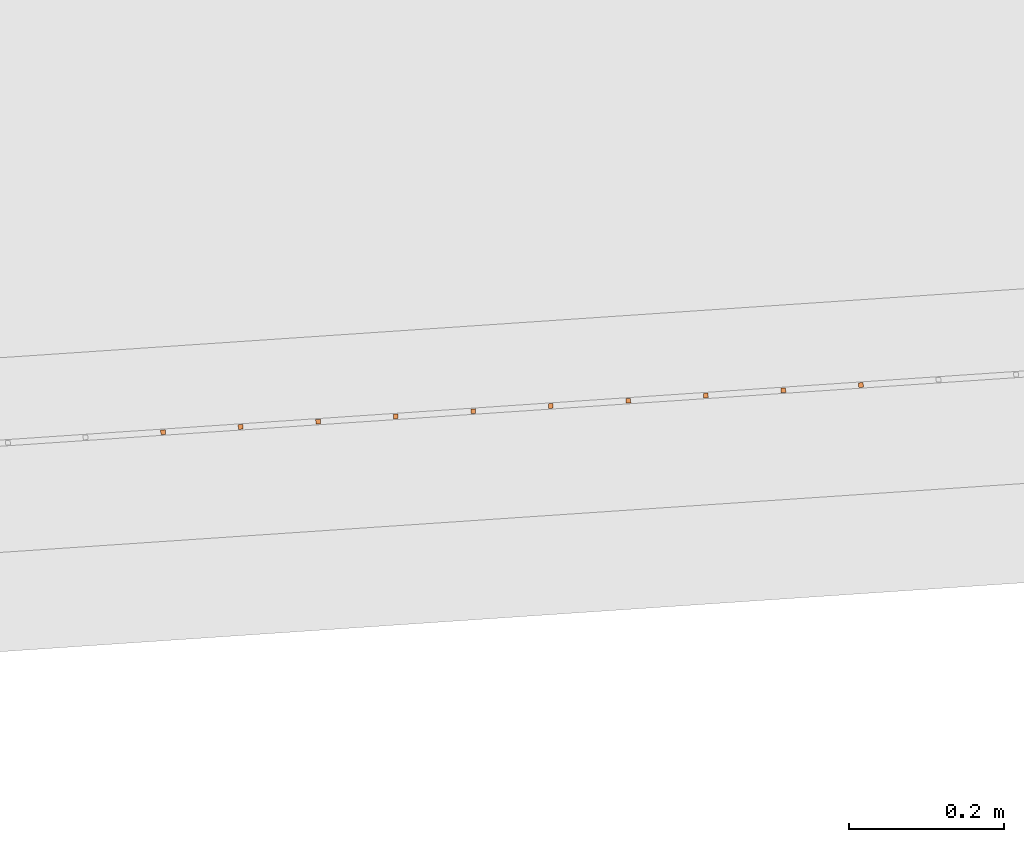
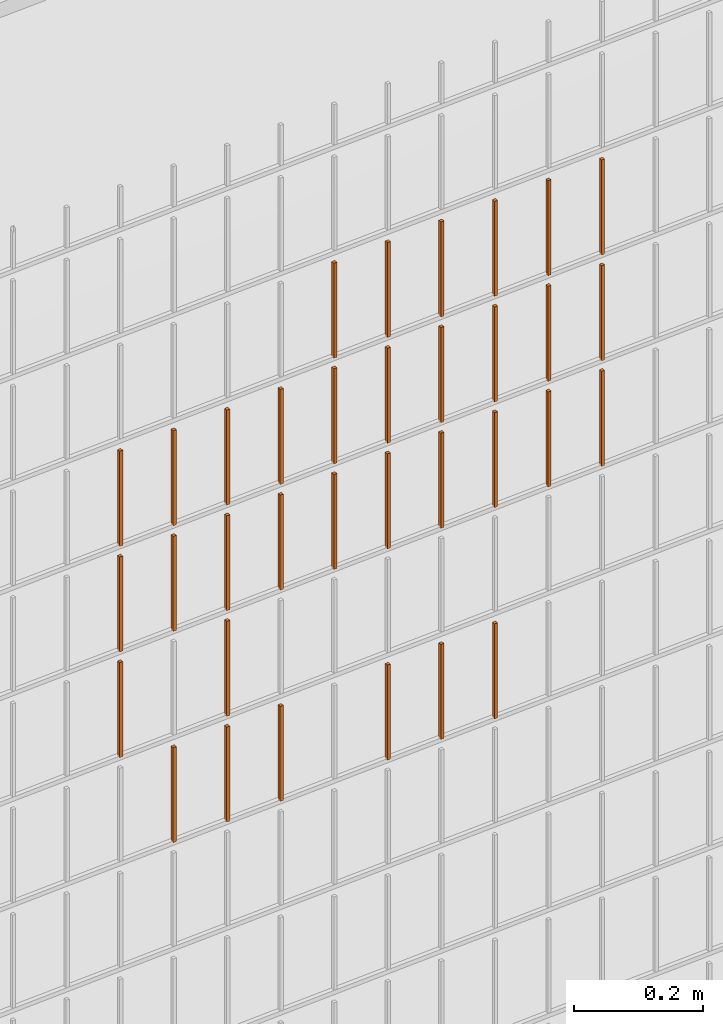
# One storey, part 260 of 1809: 34 proxies, 1 element without a shape of its own.
"""IFC2X3 building model written with IfcOpenShell, lengths in millimetres."""

from ifc_helpers import new_model, entity, si_unit, converted_unit, derived_unit, money_unit, direction, frame, origin_with_axes, place, context, subcontext, project, spatial, faceted_brep, source, transform, mapped, material, type_object, element, aggregate, save


model = new_model("IFC2X3")

# Units and contexts
model_context = context("Model", 3, precision=0.01, world=origin_with_axes(), true_north=direction((0.0, 1.0)))
body_context = subcontext(model_context, "Body", "Model", "MODEL_VIEW")
ifc_project = project(units=[si_unit("LENGTHUNIT", "METRE", prefix="MILLI"), si_unit("AREAUNIT", "SQUARE_METRE"), si_unit("VOLUMEUNIT", "CUBIC_METRE"), converted_unit("PLANEANGLEUNIT", "DEGREE", entity("IfcPlaneAngleMeasure", 0.0174532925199), si_unit("PLANEANGLEUNIT", "RADIAN"), dimensions=[0, 0, 0, 0, 0, 0, 0]), si_unit("SOLIDANGLEUNIT", "STERADIAN"), money_unit("EUR"), converted_unit("TIMEUNIT", "Year", entity("IfcTimeMeasure", 31556926.0), si_unit("TIMEUNIT", "SECOND"), dimensions=[0, 0, 1, 0, 0, 0, 0]), si_unit("MASSUNIT", "GRAM", prefix="KILO"), si_unit("THERMODYNAMICTEMPERATUREUNIT", "DEGREE_CELSIUS"), si_unit("LUMINOUSINTENSITYUNIT", "LUMEN"), si_unit("ENERGYUNIT", "JOULE", prefix="MEGA"), derived_unit("THERMALCONDUCTANCEUNIT", [(si_unit("POWERUNIT", "WATT"), 1), (si_unit("LENGTHUNIT", "METRE"), -1), (si_unit("THERMODYNAMICTEMPERATUREUNIT", "KELVIN"), -1)]), derived_unit("SPECIFICHEATCAPACITYUNIT", [(si_unit("ENERGYUNIT", "JOULE"), 1), (si_unit("MASSUNIT", "GRAM", prefix="KILO"), -1), (si_unit("THERMODYNAMICTEMPERATUREUNIT", "KELVIN"), -1)]), derived_unit("MASSDENSITYUNIT", [(si_unit("MASSUNIT", "GRAM", prefix="KILO"), 1), (si_unit("VOLUMEUNIT", "CUBIC_METRE"), -1)])], contexts=[model_context])

# Site, building, storey
site_placement = place(None, origin_with_axes())
site = spatial("IfcSite", under=ifc_project, at=site_placement, Name="Politse- ja Piirivalveameti ning Päästeameti ühishoone", CompositionType="ELEMENT")
building_placement = place(site_placement, origin_with_axes())
building = spatial("IfcBuilding", under=site, at=building_placement, Name="Politse- ja Piirivalveameti ning Päästeameti ühishoone", CompositionType="ELEMENT")
storey_placement = place(building_placement, origin_with_axes())
storey = spatial("IfcBuildingStorey", under=building, at=storey_placement, Name="Esimene korrus", CompositionType="ELEMENT", Elevation=0.0)

# Proxies
building_element_proxy_type_1 = type_object("IfcBuildingElementProxyType", Name="Railing Type", PredefinedType="NOTDEFINED")
proxy_1_placement = place(storey_placement, frame((89252.001212, -29183.4766571, 203.661247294), z_axis=(0.0, 0.0, 1.0), x_axis=(1.0, 0.0, 0.0)))
proxy_1 = element("IfcBuildingElementProxy", 1, at=proxy_1_placement, inside=storey, type_object=building_element_proxy_type_1, Name="PIIRDEAED")
ifc_material = material(Name="ET-03_Raud")
building_element_proxy_type_2 = type_object("IfcBuildingElementProxyType", Name="IfcBuildingElementProxy", PredefinedType="NOTDEFINED")
shared_shape_1 = source(origin_with_axes(), body_context, "Body", "Brep", [
    faceted_brep([(3.0, 3.0, -0.000752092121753), (-3.0, 3.0, -0.000752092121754), (-3.0, 3.0, 179.99926046), (3.0, 3.0, 179.99926046), (3.0, -3.0, 0.000752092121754), (-3.0, -3.0, 0.000752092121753), (-3.0, -3.0, 180.000764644), (3.0, -3.0, 180.000764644)], [[[0, 1, 2, 3]], [[0, 4, 5, 1]], [[1, 5, 6, 2]], [[3, 2, 6, 7]], [[4, 0, 3, 7]], [[5, 4, 7, 6]]]),
])
proxy_2_placement = place(proxy_1_placement, frame((-58692.9472729, -21262.2618507, 1212.48668932), z_axis=(0.0, 0.0, 1.0), x_axis=(1.0, 0.0, 0.0)))
proxy_2 = element("IfcBuildingElementProxy", 2, at=proxy_2_placement, type_object=building_element_proxy_type_2, material=ifc_material, Name="BALUSTER - 001", context=body_context, shape_type="MappedRepresentation", body=[
    mapped(shared_shape_1, transform((0.0, 0.0, 0.0), x_axis=(-0.0673926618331, 0.997726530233, 0.0), y_axis=(-0.997726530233, -0.0673926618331, 0.0), z_axis=(0.0, 0.0, 1.0))),
])
shared_shape_2 = source(origin_with_axes(), body_context, "Body", "Brep", [
    faceted_brep([(3.0, 3.0, -0.000752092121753), (-3.0, 3.0, -0.000752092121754), (-3.0, 3.0, 179.99926046), (3.0, 3.0, 179.99926046), (3.0, -3.0, 0.000752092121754), (-3.0, -3.0, 0.000752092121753), (-3.0, -3.0, 180.000764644), (3.0, -3.0, 180.000764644)], [[[0, 1, 2, 3]], [[0, 4, 5, 1]], [[1, 5, 6, 2]], [[3, 2, 6, 7]], [[4, 0, 3, 7]], [[5, 4, 7, 6]]]),
])
proxy_3_placement = place(proxy_1_placement, frame((-58692.9472729, -21262.2618507, 1412.48668932), z_axis=(0.0, 0.0, 1.0), x_axis=(1.0, 0.0, 0.0)))
proxy_3 = element("IfcBuildingElementProxy", 3, at=proxy_3_placement, type_object=building_element_proxy_type_2, material=ifc_material, Name="BALUSTER - 001", context=body_context, shape_type="MappedRepresentation", body=[
    mapped(shared_shape_2, transform((0.0, 0.0, 0.0), x_axis=(-0.0673926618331, 0.997726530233, 0.0), y_axis=(-0.997726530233, -0.0673926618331, 0.0), z_axis=(0.0, 0.0, 1.0))),
])
proxy_4_placement = place(proxy_1_placement, frame((-58692.9472729, -21262.2618507, 1612.48668932), z_axis=(0.0, 0.0, 1.0), x_axis=(1.0, 0.0, 0.0)))
proxy_4 = element("IfcBuildingElementProxy", 4, at=proxy_4_placement, type_object=building_element_proxy_type_2, material=ifc_material, Name="BALUSTER - 001", context=body_context, shape_type="MappedRepresentation", body=[
    mapped(shared_shape_2, transform((0.0, 0.0, 0.0), x_axis=(-0.0673926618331, 0.997726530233, 0.0), y_axis=(-0.997726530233, -0.0673926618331, 0.0), z_axis=(0.0, 0.0, 1.0))),
])
shared_shape_3 = source(origin_with_axes(), body_context, "Body", "Brep", [
    faceted_brep([(3.0, 3.0, -0.000752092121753), (-3.0, 3.0, -0.000752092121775), (-3.0, 3.0, 179.99926046), (3.0, 3.0, 179.99926046), (3.0, -3.0, 0.000752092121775), (-3.0, -3.0, 0.000752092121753), (-3.0, -3.0, 180.000764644), (3.0, -3.0, 180.000764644)], [[[0, 1, 2, 3]], [[0, 4, 5, 1]], [[1, 5, 6, 2]], [[3, 2, 6, 7]], [[4, 0, 3, 7]], [[5, 4, 7, 6]]]),
])
proxy_5_placement = place(proxy_1_placement, frame((-58293.8566608, -21235.304786, 1212.58696827), z_axis=(0.0, 0.0, 1.0), x_axis=(1.0, 0.0, 0.0)))
proxy_5 = element("IfcBuildingElementProxy", 5, at=proxy_5_placement, type_object=building_element_proxy_type_2, material=ifc_material, Name="BALUSTER - 001", context=body_context, shape_type="MappedRepresentation", body=[
    mapped(shared_shape_3, transform((0.0, 0.0, 0.0), x_axis=(-0.0673926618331, 0.997726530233, 0.0), y_axis=(-0.997726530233, -0.0673926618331, 0.0), z_axis=(0.0, 0.0, 1.0))),
])
shared_shape_4 = source(origin_with_axes(), body_context, "Body", "Brep", [
    faceted_brep([(3.0, 3.0, -0.000752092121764), (-3.0, 3.0, -0.000752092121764), (-3.0, 3.0, 179.99926046), (3.0, 3.0, 179.99926046), (3.0, -3.0, 0.000752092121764), (-3.0, -3.0, 0.000752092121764), (-3.0, -3.0, 180.000764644), (3.0, -3.0, 180.000764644)], [[[0, 1, 2, 3]], [[0, 4, 5, 1]], [[1, 5, 6, 2]], [[3, 2, 6, 7]], [[4, 0, 3, 7]], [[5, 4, 7, 6]]]),
])
proxy_6_placement = place(proxy_1_placement, frame((-58393.6293138, -21242.0440521, 1212.56189853), z_axis=(0.0, 0.0, 1.0), x_axis=(1.0, 0.0, 0.0)))
proxy_6 = element("IfcBuildingElementProxy", 6, at=proxy_6_placement, type_object=building_element_proxy_type_2, material=ifc_material, Name="BALUSTER - 001", context=body_context, shape_type="MappedRepresentation", body=[
    mapped(shared_shape_4, transform((0.0, 0.0, 0.0), x_axis=(-0.0673926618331, 0.997726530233, 0.0), y_axis=(-0.997726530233, -0.0673926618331, 0.0), z_axis=(0.0, 0.0, 1.0))),
])
shared_shape_5 = source(origin_with_axes(), body_context, "Body", "Brep", [
    faceted_brep([(3.0, 3.0, -0.000752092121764), (-3.0, 3.0, -0.000752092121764), (-3.0, 3.0, 179.99926046), (3.0, 3.0, 179.99926046), (3.0, -3.0, 0.000752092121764), (-3.0, -3.0, 0.000752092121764), (-3.0, -3.0, 180.000764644), (3.0, -3.0, 180.000764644)], [[[0, 1, 2, 3]], [[0, 4, 5, 1]], [[1, 5, 6, 2]], [[3, 2, 6, 7]], [[4, 0, 3, 7]], [[5, 4, 7, 6]]]),
])
proxy_7_placement = place(proxy_1_placement, frame((-58393.6293138, -21242.0440521, 1412.56189853), z_axis=(0.0, 0.0, 1.0), x_axis=(1.0, 0.0, 0.0)))
proxy_7 = element("IfcBuildingElementProxy", 7, at=proxy_7_placement, type_object=building_element_proxy_type_2, material=ifc_material, Name="BALUSTER - 001", context=body_context, shape_type="MappedRepresentation", body=[
    mapped(shared_shape_5, transform((0.0, 0.0, 0.0), x_axis=(-0.0673926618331, 0.997726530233, 0.0), y_axis=(-0.997726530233, -0.0673926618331, 0.0), z_axis=(0.0, 0.0, 1.0))),
])
proxy_8_placement = place(proxy_1_placement, frame((-58393.6293138, -21242.0440521, 1612.56189853), z_axis=(0.0, 0.0, 1.0), x_axis=(1.0, 0.0, 0.0)))
proxy_8 = element("IfcBuildingElementProxy", 8, at=proxy_8_placement, type_object=building_element_proxy_type_2, material=ifc_material, Name="BALUSTER - 001", context=body_context, shape_type="MappedRepresentation", body=[
    mapped(shared_shape_5, transform((0.0, 0.0, 0.0), x_axis=(-0.0673926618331, 0.997726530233, 0.0), y_axis=(-0.997726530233, -0.0673926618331, 0.0), z_axis=(0.0, 0.0, 1.0))),
])
shared_shape_6 = source(origin_with_axes(), body_context, "Body", "Brep", [
    faceted_brep([(3.0, 3.0, -0.000752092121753), (-3.0, 3.0, -0.000752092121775), (-3.0, 3.0, 179.99926046), (3.0, 3.0, 179.99926046), (3.0, -3.0, 0.000752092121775), (-3.0, -3.0, 0.000752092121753), (-3.0, -3.0, 180.000764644), (3.0, -3.0, 180.000764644)], [[[0, 1, 2, 3]], [[0, 4, 5, 1]], [[1, 5, 6, 2]], [[3, 2, 6, 7]], [[4, 0, 3, 7]], [[5, 4, 7, 6]]]),
])
proxy_9_placement = place(proxy_1_placement, frame((-58293.8566608, -21235.304786, 1412.58696827), z_axis=(0.0, 0.0, 1.0), x_axis=(1.0, 0.0, 0.0)))
proxy_9 = element("IfcBuildingElementProxy", 9, at=proxy_9_placement, type_object=building_element_proxy_type_2, material=ifc_material, Name="BALUSTER - 001", context=body_context, shape_type="MappedRepresentation", body=[
    mapped(shared_shape_6, transform((0.0, 0.0, 0.0), x_axis=(-0.0673926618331, 0.997726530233, 0.0), y_axis=(-0.997726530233, -0.0673926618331, 0.0), z_axis=(0.0, 0.0, 1.0))),
])
proxy_10_placement = place(proxy_1_placement, frame((-58293.8566608, -21235.304786, 1612.58696827), z_axis=(0.0, 0.0, 1.0), x_axis=(1.0, 0.0, 0.0)))
proxy_10 = element("IfcBuildingElementProxy", 10, at=proxy_10_placement, type_object=building_element_proxy_type_2, material=ifc_material, Name="BALUSTER - 001", context=body_context, shape_type="MappedRepresentation", body=[
    mapped(shared_shape_6, transform((0.0, 0.0, 0.0), x_axis=(-0.0673926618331, 0.997726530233, 0.0), y_axis=(-0.997726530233, -0.0673926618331, 0.0), z_axis=(0.0, 0.0, 1.0))),
])
shared_shape_7 = source(origin_with_axes(), body_context, "Body", "Brep", [
    faceted_brep([(3.0, 3.0, -0.000752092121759), (-3.0, 3.0, -0.000752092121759), (-3.0, 3.0, 179.99926046), (3.0, 3.0, 179.99926046), (3.0, -3.0, 0.000752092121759), (-3.0, -3.0, 0.000752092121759), (-3.0, -3.0, 180.000764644), (3.0, -3.0, 180.000764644)], [[[0, 1, 2, 3]], [[0, 4, 5, 1]], [[1, 5, 6, 2]], [[3, 2, 6, 7]], [[4, 0, 3, 7]], [[5, 4, 7, 6]]]),
])
proxy_11_placement = place(proxy_1_placement, frame((-58792.7199259, -21269.0011169, 1212.46161958), z_axis=(0.0, 0.0, 1.0), x_axis=(1.0, 0.0, 0.0)))
proxy_11 = element("IfcBuildingElementProxy", 11, at=proxy_11_placement, type_object=building_element_proxy_type_2, material=ifc_material, Name="BALUSTER - 001", context=body_context, shape_type="MappedRepresentation", body=[
    mapped(shared_shape_7, transform((0.0, 0.0, 0.0), x_axis=(-0.0673926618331, 0.997726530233, 0.0), y_axis=(-0.997726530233, -0.0673926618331, 0.0), z_axis=(0.0, 0.0, 1.0))),
])
shared_shape_8 = source(origin_with_axes(), body_context, "Body", "Brep", [
    faceted_brep([(3.0, 3.0, -0.000752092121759), (-3.0, 3.0, -0.000752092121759), (-3.0, 3.0, 179.99926046), (3.0, 3.0, 179.99926046), (3.0, -3.0, 0.000752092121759), (-3.0, -3.0, 0.000752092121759), (-3.0, -3.0, 180.000764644), (3.0, -3.0, 180.000764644)], [[[0, 1, 2, 3]], [[0, 4, 5, 1]], [[1, 5, 6, 2]], [[3, 2, 6, 7]], [[4, 0, 3, 7]], [[5, 4, 7, 6]]]),
])
proxy_12_placement = place(proxy_1_placement, frame((-58792.7199259, -21269.0011169, 812.461619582), z_axis=(0.0, 0.0, 1.0), x_axis=(1.0, 0.0, 0.0)))
proxy_12 = element("IfcBuildingElementProxy", 12, at=proxy_12_placement, type_object=building_element_proxy_type_2, material=ifc_material, Name="BALUSTER - 001", context=body_context, shape_type="MappedRepresentation", body=[
    mapped(shared_shape_8, transform((0.0, 0.0, 0.0), x_axis=(-0.0673926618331, 0.997726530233, 0.0), y_axis=(-0.997726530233, -0.0673926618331, 0.0), z_axis=(0.0, 0.0, 1.0))),
])
shared_shape_9 = source(origin_with_axes(), body_context, "Body", "Brep", [
    faceted_brep([(3.0, 3.0, -0.000752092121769), (-3.0, 3.0, -0.000752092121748), (-3.0, 3.0, 179.99926046), (3.0, 3.0, 179.99926046), (3.0, -3.0, 0.000752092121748), (-3.0, -3.0, 0.000752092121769), (-3.0, -3.0, 180.000764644), (3.0, -3.0, 180.000764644)], [[[0, 1, 2, 3]], [[0, 4, 5, 1]], [[1, 5, 6, 2]], [[3, 2, 6, 7]], [[4, 0, 3, 7]], [[5, 4, 7, 6]]]),
])
proxy_13_placement = place(proxy_1_placement, frame((-58593.1746199, -21255.5225845, 812.511759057), z_axis=(0.0, 0.0, 1.0), x_axis=(1.0, 0.0, 0.0)))
proxy_13 = element("IfcBuildingElementProxy", 13, at=proxy_13_placement, type_object=building_element_proxy_type_2, material=ifc_material, Name="BALUSTER - 001", context=body_context, shape_type="MappedRepresentation", body=[
    mapped(shared_shape_9, transform((0.0, 0.0, 0.0), x_axis=(-0.0673926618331, 0.997726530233, 0.0), y_axis=(-0.997726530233, -0.0673926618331, 0.0), z_axis=(0.0, 0.0, 1.0))),
])
shared_shape_10 = source(origin_with_axes(), body_context, "Body", "Brep", [
    faceted_brep([(3.0, 3.0, -0.000752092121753), (-3.0, 3.0, -0.000752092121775), (-3.0, 3.0, 179.99926046), (3.0, 3.0, 179.99926046), (3.0, -3.0, 0.000752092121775), (-3.0, -3.0, 0.000752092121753), (-3.0, -3.0, 180.000764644), (3.0, -3.0, 180.000764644)], [[[0, 1, 2, 3]], [[0, 4, 5, 1]], [[1, 5, 6, 2]], [[3, 2, 6, 7]], [[4, 0, 3, 7]], [[5, 4, 7, 6]]]),
])
proxy_14_placement = place(proxy_1_placement, frame((-58393.6293138, -21242.0440521, 812.561898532), z_axis=(0.0, 0.0, 1.0), x_axis=(1.0, 0.0, 0.0)))
proxy_14 = element("IfcBuildingElementProxy", 14, at=proxy_14_placement, type_object=building_element_proxy_type_2, material=ifc_material, Name="BALUSTER - 001", context=body_context, shape_type="MappedRepresentation", body=[
    mapped(shared_shape_10, transform((0.0, 0.0, 0.0), x_axis=(-0.0673926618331, 0.997726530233, 0.0), y_axis=(-0.997726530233, -0.0673926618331, 0.0), z_axis=(0.0, 0.0, 1.0))),
])
proxy_15_placement = place(proxy_1_placement, frame((-58493.4019668, -21248.7833183, 812.536828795), z_axis=(0.0, 0.0, 1.0), x_axis=(1.0, 0.0, 0.0)))
proxy_15 = element("IfcBuildingElementProxy", 15, at=proxy_15_placement, type_object=building_element_proxy_type_2, material=ifc_material, Name="BALUSTER - 001", context=body_context, shape_type="MappedRepresentation", body=[
    mapped(shared_shape_10, transform((0.0, 0.0, 0.0), x_axis=(-0.0673926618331, 0.997726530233, 0.0), y_axis=(-0.997726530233, -0.0673926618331, 0.0), z_axis=(0.0, 0.0, 1.0))),
])
shared_shape_11 = source(origin_with_axes(), body_context, "Body", "Brep", [
    faceted_brep([(3.0, 3.0, -0.000752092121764), (-3.0, 3.0, -0.000752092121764), (-3.0, 3.0, 179.99926046), (3.0, 3.0, 179.99926046), (3.0, -3.0, 0.000752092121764), (-3.0, -3.0, 0.000752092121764), (-3.0, -3.0, 180.000764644), (3.0, -3.0, 180.000764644)], [[[0, 1, 2, 3]], [[0, 4, 5, 1]], [[1, 5, 6, 2]], [[3, 2, 6, 7]], [[4, 0, 3, 7]], [[5, 4, 7, 6]]]),
])
proxy_16_placement = place(proxy_1_placement, frame((-58892.4925789, -21275.7403831, 812.436549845), z_axis=(0.0, 0.0, 1.0), x_axis=(1.0, 0.0, 0.0)))
proxy_16 = element("IfcBuildingElementProxy", 16, at=proxy_16_placement, type_object=building_element_proxy_type_2, material=ifc_material, Name="BALUSTER - 001", context=body_context, shape_type="MappedRepresentation", body=[
    mapped(shared_shape_11, transform((0.0, 0.0, 0.0), x_axis=(-0.0673926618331, 0.997726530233, 0.0), y_axis=(-0.997726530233, -0.0673926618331, 0.0), z_axis=(0.0, 0.0, 1.0))),
])
shared_shape_12 = source(origin_with_axes(), body_context, "Body", "Brep", [
    faceted_brep([(3.0, 3.0, -0.000752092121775), (-3.0, 3.0, -0.000752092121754), (-3.0, 3.0, 179.99926046), (3.0, 3.0, 179.99926046), (3.0, -3.0, 0.000752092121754), (-3.0, -3.0, 0.000752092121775), (-3.0, -3.0, 180.000764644), (3.0, -3.0, 180.000764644)], [[[0, 1, 2, 3]], [[0, 4, 5, 1]], [[1, 5, 6, 2]], [[3, 2, 6, 7]], [[4, 0, 3, 7]], [[5, 4, 7, 6]]]),
])
proxy_17_placement = place(proxy_1_placement, frame((-58992.265232, -21282.4796492, 812.411480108), z_axis=(0.0, 0.0, 1.0), x_axis=(1.0, 0.0, 0.0)))
proxy_17 = element("IfcBuildingElementProxy", 17, at=proxy_17_placement, type_object=building_element_proxy_type_2, material=ifc_material, Name="BALUSTER - 001", context=body_context, shape_type="MappedRepresentation", body=[
    mapped(shared_shape_12, transform((0.0, 0.0, 0.0), x_axis=(-0.0673926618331, 0.997726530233, 0.0), y_axis=(-0.997726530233, -0.0673926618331, 0.0), z_axis=(0.0, 0.0, 1.0))),
])
shared_shape_13 = source(origin_with_axes(), body_context, "Body", "Brep", [
    faceted_brep([(3.0, 3.0, -0.000752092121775), (-3.0, 3.0, -0.000752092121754), (-3.0, 3.0, 179.99926046), (3.0, 3.0, 179.99926046), (3.0, -3.0, 0.000752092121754), (-3.0, -3.0, 0.000752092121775), (-3.0, -3.0, 180.000764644), (3.0, -3.0, 180.000764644)], [[[0, 1, 2, 3]], [[0, 4, 5, 1]], [[1, 5, 6, 2]], [[3, 2, 6, 7]], [[4, 0, 3, 7]], [[5, 4, 7, 6]]]),
])
proxy_18_placement = place(proxy_1_placement, frame((-58892.4925789, -21275.7403831, 1012.43654985), z_axis=(0.0, 0.0, 1.0), x_axis=(1.0, 0.0, 0.0)))
proxy_18 = element("IfcBuildingElementProxy", 18, at=proxy_18_placement, type_object=building_element_proxy_type_2, material=ifc_material, Name="BALUSTER - 001", context=body_context, shape_type="MappedRepresentation", body=[
    mapped(shared_shape_13, transform((0.0, 0.0, 0.0), x_axis=(-0.0673926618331, 0.997726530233, 0.0), y_axis=(-0.997726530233, -0.0673926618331, 0.0), z_axis=(0.0, 0.0, 1.0))),
])
shared_shape_14 = source(origin_with_axes(), body_context, "Body", "Brep", [
    faceted_brep([(3.0, 3.0, -0.000752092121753), (-3.0, 3.0, -0.000752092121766), (-3.00000000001, 3.00000000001, 179.99926046), (2.99999999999, 3.00000000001, 179.99926046), (3.0, -3.0, 0.000752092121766), (-3.0, -3.0, 0.000752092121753), (-3.00000000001, -2.99999999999, 180.000764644), (2.99999999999, -2.99999999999, 180.000764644)], [[[0, 1, 2, 3]], [[0, 4, 5, 1]], [[1, 5, 6, 2]], [[3, 2, 6, 7]], [[4, 0, 3, 7]], [[5, 4, 7, 6]]]),
])
proxy_19_placement = place(proxy_1_placement, frame((-59092.037885, -21289.2189154, 1012.38641037), z_axis=(0.0, 0.0, 1.0), x_axis=(1.0, 0.0, 0.0)))
proxy_19 = element("IfcBuildingElementProxy", 19, at=proxy_19_placement, type_object=building_element_proxy_type_2, material=ifc_material, Name="BALUSTER - 001", context=body_context, shape_type="MappedRepresentation", body=[
    mapped(shared_shape_14, transform((0.0, 0.0, 0.0), x_axis=(-0.0673926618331, 0.997726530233, 0.0), y_axis=(-0.997726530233, -0.0673926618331, 0.0), z_axis=(0.0, 0.0, 1.0))),
])
shared_shape_15 = source(origin_with_axes(), body_context, "Body", "Brep", [
    faceted_brep([(3.0, 3.0, -0.000752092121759), (-3.0, 3.0, -0.000752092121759), (-3.0, 3.0, 179.99926046), (3.0, 3.0, 179.99926046), (3.0, -3.0, 0.000752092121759), (-3.0, -3.0, 0.000752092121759), (-3.0, -3.0, 180.000764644), (3.0, -3.0, 180.000764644)], [[[0, 1, 2, 3]], [[0, 4, 5, 1]], [[1, 5, 6, 2]], [[3, 2, 6, 7]], [[4, 0, 3, 7]], [[5, 4, 7, 6]]]),
])
proxy_20_placement = place(proxy_1_placement, frame((-58194.0840078, -21228.5655198, 1212.61203801), z_axis=(0.0, 0.0, 1.0), x_axis=(1.0, 0.0, 0.0)))
proxy_20 = element("IfcBuildingElementProxy", 20, at=proxy_20_placement, type_object=building_element_proxy_type_2, material=ifc_material, Name="BALUSTER - 001", context=body_context, shape_type="MappedRepresentation", body=[
    mapped(shared_shape_15, transform((0.0, 0.0, 0.0), x_axis=(-0.0673926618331, 0.997726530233, 0.0), y_axis=(-0.997726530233, -0.0673926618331, 0.0), z_axis=(0.0, 0.0, 1.0))),
])
shared_shape_16 = source(origin_with_axes(), body_context, "Body", "Brep", [
    faceted_brep([(3.0, 3.0, -0.000752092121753), (-3.0, 3.0, -0.000752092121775), (-3.0, 3.0, 179.99926046), (3.0, 3.0, 179.99926046), (3.0, -3.0, 0.000752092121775), (-3.0, -3.0, 0.000752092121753), (-3.0, -3.0, 180.000764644), (3.0, -3.0, 180.000764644)], [[[0, 1, 2, 3]], [[0, 4, 5, 1]], [[1, 5, 6, 2]], [[3, 2, 6, 7]], [[4, 0, 3, 7]], [[5, 4, 7, 6]]]),
])
proxy_21_placement = place(proxy_1_placement, frame((-58493.4019668, -21248.7833183, 1212.53682879), z_axis=(0.0, 0.0, 1.0), x_axis=(1.0, 0.0, 0.0)))
proxy_21 = element("IfcBuildingElementProxy", 21, at=proxy_21_placement, type_object=building_element_proxy_type_2, material=ifc_material, Name="BALUSTER - 001", context=body_context, shape_type="MappedRepresentation", body=[
    mapped(shared_shape_16, transform((0.0, 0.0, 0.0), x_axis=(-0.0673926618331, 0.997726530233, 0.0), y_axis=(-0.997726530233, -0.0673926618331, 0.0), z_axis=(0.0, 0.0, 1.0))),
])
shared_shape_17 = source(origin_with_axes(), body_context, "Body", "Brep", [
    faceted_brep([(3.0, 3.0, -0.000752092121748), (-3.0, 3.0, -0.00075209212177), (-3.0, 3.0, 179.99926046), (3.0, 3.0, 179.99926046), (3.0, -3.0, 0.00075209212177), (-3.0, -3.0, 0.000752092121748), (-3.0, -3.0, 180.000764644), (3.0, -3.0, 180.000764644)], [[[0, 1, 2, 3]], [[0, 4, 5, 1]], [[1, 5, 6, 2]], [[3, 2, 6, 7]], [[4, 0, 3, 7]], [[5, 4, 7, 6]]]),
])
proxy_22_placement = place(proxy_1_placement, frame((-58593.1746199, -21255.5225845, 1212.51175906), z_axis=(0.0, 0.0, 1.0), x_axis=(1.0, 0.0, 0.0)))
proxy_22 = element("IfcBuildingElementProxy", 22, at=proxy_22_placement, type_object=building_element_proxy_type_2, material=ifc_material, Name="BALUSTER - 001", context=body_context, shape_type="MappedRepresentation", body=[
    mapped(shared_shape_17, transform((0.0, 0.0, 0.0), x_axis=(-0.0673926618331, 0.997726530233, 0.0), y_axis=(-0.997726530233, -0.0673926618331, 0.0), z_axis=(0.0, 0.0, 1.0))),
])
shared_shape_18 = source(origin_with_axes(), body_context, "Body", "Brep", [
    faceted_brep([(3.0, 3.0, -0.000752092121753), (-3.0, 3.0, -0.000752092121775), (-3.0, 3.0, 179.99926046), (3.0, 3.0, 179.99926046), (3.0, -3.0, 0.000752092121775), (-3.0, -3.0, 0.000752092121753), (-3.0, -3.0, 180.000764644), (3.0, -3.0, 180.000764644)], [[[0, 1, 2, 3]], [[0, 4, 5, 1]], [[1, 5, 6, 2]], [[3, 2, 6, 7]], [[4, 0, 3, 7]], [[5, 4, 7, 6]]]),
])
proxy_23_placement = place(proxy_1_placement, frame((-58892.4925789, -21275.7403831, 1212.43654985), z_axis=(0.0, 0.0, 1.0), x_axis=(1.0, 0.0, 0.0)))
proxy_23 = element("IfcBuildingElementProxy", 23, at=proxy_23_placement, type_object=building_element_proxy_type_2, material=ifc_material, Name="BALUSTER - 001", context=body_context, shape_type="MappedRepresentation", body=[
    mapped(shared_shape_18, transform((0.0, 0.0, 0.0), x_axis=(-0.0673926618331, 0.997726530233, 0.0), y_axis=(-0.997726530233, -0.0673926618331, 0.0), z_axis=(0.0, 0.0, 1.0))),
])
shared_shape_19 = source(origin_with_axes(), body_context, "Body", "Brep", [
    faceted_brep([(3.0, 3.0, -0.000752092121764), (-3.0, 3.0, -0.000752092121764), (-3.0, 3.0, 179.99926046), (3.0, 3.0, 179.99926046), (3.0, -3.0, 0.000752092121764), (-3.0, -3.0, 0.000752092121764), (-3.0, -3.0, 180.000764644), (3.0, -3.0, 180.000764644)], [[[0, 1, 2, 3]], [[0, 4, 5, 1]], [[1, 5, 6, 2]], [[3, 2, 6, 7]], [[4, 0, 3, 7]], [[5, 4, 7, 6]]]),
])
proxy_24_placement = place(proxy_1_placement, frame((-58992.265232, -21282.4796492, 1212.41148011), z_axis=(0.0, 0.0, 1.0), x_axis=(1.0, 0.0, 0.0)))
proxy_24 = element("IfcBuildingElementProxy", 24, at=proxy_24_placement, type_object=building_element_proxy_type_2, material=ifc_material, Name="BALUSTER - 001", context=body_context, shape_type="MappedRepresentation", body=[
    mapped(shared_shape_19, transform((0.0, 0.0, 0.0), x_axis=(-0.0673926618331, 0.997726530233, 0.0), y_axis=(-0.997726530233, -0.0673926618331, 0.0), z_axis=(0.0, 0.0, 1.0))),
])
shared_shape_20 = source(origin_with_axes(), body_context, "Body", "Brep", [
    faceted_brep([(3.0, 3.0, -0.000752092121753), (-3.0, 3.0, -0.000752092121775), (-3.0, 3.0, 179.99926046), (3.0, 3.0, 179.99926046), (3.0, -3.0, 0.000752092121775), (-3.0, -3.0, 0.000752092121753), (-3.0, -3.0, 180.000764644), (3.0, -3.0, 180.000764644)], [[[0, 1, 2, 3]], [[0, 4, 5, 1]], [[1, 5, 6, 2]], [[3, 2, 6, 7]], [[4, 0, 3, 7]], [[5, 4, 7, 6]]]),
])
proxy_25_placement = place(proxy_1_placement, frame((-59092.037885, -21289.2189154, 1212.38641037), z_axis=(0.0, 0.0, 1.0), x_axis=(1.0, 0.0, 0.0)))
proxy_25 = element("IfcBuildingElementProxy", 25, at=proxy_25_placement, type_object=building_element_proxy_type_2, material=ifc_material, Name="BALUSTER - 001", context=body_context, shape_type="MappedRepresentation", body=[
    mapped(shared_shape_20, transform((0.0, 0.0, 0.0), x_axis=(-0.0673926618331, 0.997726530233, 0.0), y_axis=(-0.997726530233, -0.0673926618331, 0.0), z_axis=(0.0, 0.0, 1.0))),
])
shared_shape_21 = source(origin_with_axes(), body_context, "Body", "Brep", [
    faceted_brep([(3.0, 3.0, -0.000752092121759), (-3.0, 3.0, -0.000752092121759), (-3.0, 3.0, 179.99926046), (3.0, 3.0, 179.99926046), (3.0, -3.0, 0.000752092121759), (-3.0, -3.0, 0.000752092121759), (-3.0, -3.0, 180.000764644), (3.0, -3.0, 180.000764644)], [[[0, 1, 2, 3]], [[0, 4, 5, 1]], [[1, 5, 6, 2]], [[3, 2, 6, 7]], [[4, 0, 3, 7]], [[5, 4, 7, 6]]]),
])
proxy_26_placement = place(proxy_1_placement, frame((-58194.0840078, -21228.5655198, 1412.61203801), z_axis=(0.0, 0.0, 1.0), x_axis=(1.0, 0.0, 0.0)))
proxy_26 = element("IfcBuildingElementProxy", 26, at=proxy_26_placement, type_object=building_element_proxy_type_2, material=ifc_material, Name="BALUSTER - 001", context=body_context, shape_type="MappedRepresentation", body=[
    mapped(shared_shape_21, transform((0.0, 0.0, 0.0), x_axis=(-0.0673926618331, 0.997726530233, 0.0), y_axis=(-0.997726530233, -0.0673926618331, 0.0), z_axis=(0.0, 0.0, 1.0))),
])
proxy_27_placement = place(proxy_1_placement, frame((-58194.0840078, -21228.5655198, 1612.61203801), z_axis=(0.0, 0.0, 1.0), x_axis=(1.0, 0.0, 0.0)))
proxy_27 = element("IfcBuildingElementProxy", 27, at=proxy_27_placement, type_object=building_element_proxy_type_2, material=ifc_material, Name="BALUSTER - 001", context=body_context, shape_type="MappedRepresentation", body=[
    mapped(shared_shape_21, transform((0.0, 0.0, 0.0), x_axis=(-0.0673926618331, 0.997726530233, 0.0), y_axis=(-0.997726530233, -0.0673926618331, 0.0), z_axis=(0.0, 0.0, 1.0))),
])
shared_shape_22 = source(origin_with_axes(), body_context, "Body", "Brep", [
    faceted_brep([(3.0, 3.0, -0.000752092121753), (-3.0, 3.0, -0.000752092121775), (-3.0, 3.0, 179.99926046), (3.0, 3.0, 179.99926046), (3.0, -3.0, 0.000752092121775), (-3.0, -3.0, 0.000752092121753), (-3.0, -3.0, 180.000764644), (3.0, -3.0, 180.000764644)], [[[0, 1, 2, 3]], [[0, 4, 5, 1]], [[1, 5, 6, 2]], [[3, 2, 6, 7]], [[4, 0, 3, 7]], [[5, 4, 7, 6]]]),
])
proxy_28_placement = place(proxy_1_placement, frame((-58493.4019668, -21248.7833183, 1412.53682879), z_axis=(0.0, 0.0, 1.0), x_axis=(1.0, 0.0, 0.0)))
proxy_28 = element("IfcBuildingElementProxy", 28, at=proxy_28_placement, type_object=building_element_proxy_type_2, material=ifc_material, Name="BALUSTER - 001", context=body_context, shape_type="MappedRepresentation", body=[
    mapped(shared_shape_22, transform((0.0, 0.0, 0.0), x_axis=(-0.0673926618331, 0.997726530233, 0.0), y_axis=(-0.997726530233, -0.0673926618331, 0.0), z_axis=(0.0, 0.0, 1.0))),
])
proxy_29_placement = place(proxy_1_placement, frame((-58493.4019668, -21248.7833183, 1612.53682879), z_axis=(0.0, 0.0, 1.0), x_axis=(1.0, 0.0, 0.0)))
proxy_29 = element("IfcBuildingElementProxy", 29, at=proxy_29_placement, type_object=building_element_proxy_type_2, material=ifc_material, Name="BALUSTER - 001", context=body_context, shape_type="MappedRepresentation", body=[
    mapped(shared_shape_22, transform((0.0, 0.0, 0.0), x_axis=(-0.0673926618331, 0.997726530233, 0.0), y_axis=(-0.997726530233, -0.0673926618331, 0.0), z_axis=(0.0, 0.0, 1.0))),
])
shared_shape_23 = source(origin_with_axes(), body_context, "Body", "Brep", [
    faceted_brep([(3.0, 3.0, -0.000752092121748), (-3.0, 3.0, -0.00075209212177), (-3.0, 3.0, 179.99926046), (3.0, 3.0, 179.99926046), (3.0, -3.0, 0.00075209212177), (-3.0, -3.0, 0.000752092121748), (-3.0, -3.0, 180.000764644), (3.0, -3.0, 180.000764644)], [[[0, 1, 2, 3]], [[0, 4, 5, 1]], [[1, 5, 6, 2]], [[3, 2, 6, 7]], [[4, 0, 3, 7]], [[5, 4, 7, 6]]]),
])
proxy_30_placement = place(proxy_1_placement, frame((-58593.1746199, -21255.5225845, 1412.51175906), z_axis=(0.0, 0.0, 1.0), x_axis=(1.0, 0.0, 0.0)))
proxy_30 = element("IfcBuildingElementProxy", 30, at=proxy_30_placement, type_object=building_element_proxy_type_2, material=ifc_material, Name="BALUSTER - 001", context=body_context, shape_type="MappedRepresentation", body=[
    mapped(shared_shape_23, transform((0.0, 0.0, 0.0), x_axis=(-0.0673926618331, 0.997726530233, 0.0), y_axis=(-0.997726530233, -0.0673926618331, 0.0), z_axis=(0.0, 0.0, 1.0))),
])
proxy_31_placement = place(proxy_1_placement, frame((-58593.1746199, -21255.5225845, 1612.51175906), z_axis=(0.0, 0.0, 1.0), x_axis=(1.0, 0.0, 0.0)))
proxy_31 = element("IfcBuildingElementProxy", 31, at=proxy_31_placement, type_object=building_element_proxy_type_2, material=ifc_material, Name="BALUSTER - 001", context=body_context, shape_type="MappedRepresentation", body=[
    mapped(shared_shape_23, transform((0.0, 0.0, 0.0), x_axis=(-0.0673926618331, 0.997726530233, 0.0), y_axis=(-0.997726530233, -0.0673926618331, 0.0), z_axis=(0.0, 0.0, 1.0))),
])
shared_shape_24 = source(origin_with_axes(), body_context, "Body", "Brep", [
    faceted_brep([(3.0, 3.0, -0.000752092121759), (-3.0, 3.0, -0.000752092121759), (-3.0, 3.0, 179.99926046), (3.0, 3.0, 179.99926046), (3.0, -3.0, 0.000752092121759), (-3.0, -3.0, 0.000752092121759), (-3.0, -3.0, 180.000764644), (3.0, -3.0, 180.000764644)], [[[0, 1, 2, 3]], [[0, 4, 5, 1]], [[1, 5, 6, 2]], [[3, 2, 6, 7]], [[4, 0, 3, 7]], [[5, 4, 7, 6]]]),
])
proxy_32_placement = place(proxy_1_placement, frame((-58792.7199259, -21269.0011169, 1412.46161958), z_axis=(0.0, 0.0, 1.0), x_axis=(1.0, 0.0, 0.0)))
proxy_32 = element("IfcBuildingElementProxy", 32, at=proxy_32_placement, type_object=building_element_proxy_type_2, material=ifc_material, Name="BALUSTER - 001", context=body_context, shape_type="MappedRepresentation", body=[
    mapped(shared_shape_24, transform((0.0, 0.0, 0.0), x_axis=(-0.0673926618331, 0.997726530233, 0.0), y_axis=(-0.997726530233, -0.0673926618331, 0.0), z_axis=(0.0, 0.0, 1.0))),
])
shared_shape_25 = source(origin_with_axes(), body_context, "Body", "Brep", [
    faceted_brep([(3.0, 3.0, -0.000752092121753), (-3.0, 3.0, -0.000752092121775), (-3.0, 3.0, 179.99926046), (3.0, 3.0, 179.99926046), (3.0, -3.0, 0.000752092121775), (-3.0, -3.0, 0.000752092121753), (-3.0, -3.0, 180.000764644), (3.0, -3.0, 180.000764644)], [[[0, 1, 2, 3]], [[0, 4, 5, 1]], [[1, 5, 6, 2]], [[3, 2, 6, 7]], [[4, 0, 3, 7]], [[5, 4, 7, 6]]]),
])
proxy_33_placement = place(proxy_1_placement, frame((-58892.4925789, -21275.7403831, 1412.43654985), z_axis=(0.0, 0.0, 1.0), x_axis=(1.0, 0.0, 0.0)))
proxy_33 = element("IfcBuildingElementProxy", 33, at=proxy_33_placement, type_object=building_element_proxy_type_2, material=ifc_material, Name="BALUSTER - 001", context=body_context, shape_type="MappedRepresentation", body=[
    mapped(shared_shape_25, transform((0.0, 0.0, 0.0), x_axis=(-0.0673926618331, 0.997726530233, 0.0), y_axis=(-0.997726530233, -0.0673926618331, 0.0), z_axis=(0.0, 0.0, 1.0))),
])
shared_shape_26 = source(origin_with_axes(), body_context, "Body", "Brep", [
    faceted_brep([(3.0, 3.0, -0.000752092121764), (-3.0, 3.0, -0.000752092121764), (-3.0, 3.0, 179.99926046), (3.0, 3.0, 179.99926046), (3.0, -3.0, 0.000752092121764), (-3.0, -3.0, 0.000752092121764), (-3.0, -3.0, 180.000764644), (3.0, -3.0, 180.000764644)], [[[0, 1, 2, 3]], [[0, 4, 5, 1]], [[1, 5, 6, 2]], [[3, 2, 6, 7]], [[4, 0, 3, 7]], [[5, 4, 7, 6]]]),
])
proxy_34_placement = place(proxy_1_placement, frame((-58992.265232, -21282.4796492, 1412.41148011), z_axis=(0.0, 0.0, 1.0), x_axis=(1.0, 0.0, 0.0)))
proxy_34 = element("IfcBuildingElementProxy", 34, at=proxy_34_placement, type_object=building_element_proxy_type_2, material=ifc_material, Name="BALUSTER - 001", context=body_context, shape_type="MappedRepresentation", body=[
    mapped(shared_shape_26, transform((0.0, 0.0, 0.0), x_axis=(-0.0673926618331, 0.997726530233, 0.0), y_axis=(-0.997726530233, -0.0673926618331, 0.0), z_axis=(0.0, 0.0, 1.0))),
])
shared_shape_27 = source(origin_with_axes(), body_context, "Body", "Brep", [
    faceted_brep([(3.0, 3.0, -0.000752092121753), (-3.0, 3.0, -0.000752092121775), (-3.0, 3.0, 179.99926046), (3.0, 3.0, 179.99926046), (3.0, -3.0, 0.000752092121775), (-3.0, -3.0, 0.000752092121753), (-3.0, -3.0, 180.000764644), (3.0, -3.0, 180.000764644)], [[[0, 1, 2, 3]], [[0, 4, 5, 1]], [[1, 5, 6, 2]], [[3, 2, 6, 7]], [[4, 0, 3, 7]], [[5, 4, 7, 6]]]),
])
proxy_35_placement = place(proxy_1_placement, frame((-59092.037885, -21289.2189154, 1412.38641037), z_axis=(0.0, 0.0, 1.0), x_axis=(1.0, 0.0, 0.0)))
proxy_35 = element("IfcBuildingElementProxy", 35, at=proxy_35_placement, type_object=building_element_proxy_type_2, material=ifc_material, Name="BALUSTER - 001", context=body_context, shape_type="MappedRepresentation", body=[
    mapped(shared_shape_27, transform((0.0, 0.0, 0.0), x_axis=(-0.0673926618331, 0.997726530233, 0.0), y_axis=(-0.997726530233, -0.0673926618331, 0.0), z_axis=(0.0, 0.0, 1.0))),
])
aggregate(proxy_1, [proxy_14, proxy_15, proxy_13, proxy_12, proxy_16, proxy_17, proxy_18, proxy_19, proxy_20, proxy_5, proxy_6, proxy_21, proxy_22, proxy_2, proxy_11, proxy_23, proxy_24, proxy_25, proxy_26, proxy_9, proxy_7, proxy_28, proxy_30, proxy_3, proxy_32, proxy_33, proxy_34, proxy_35, proxy_27, proxy_10, proxy_8, proxy_29, proxy_31, proxy_4])

save(model, "model.ifc")
